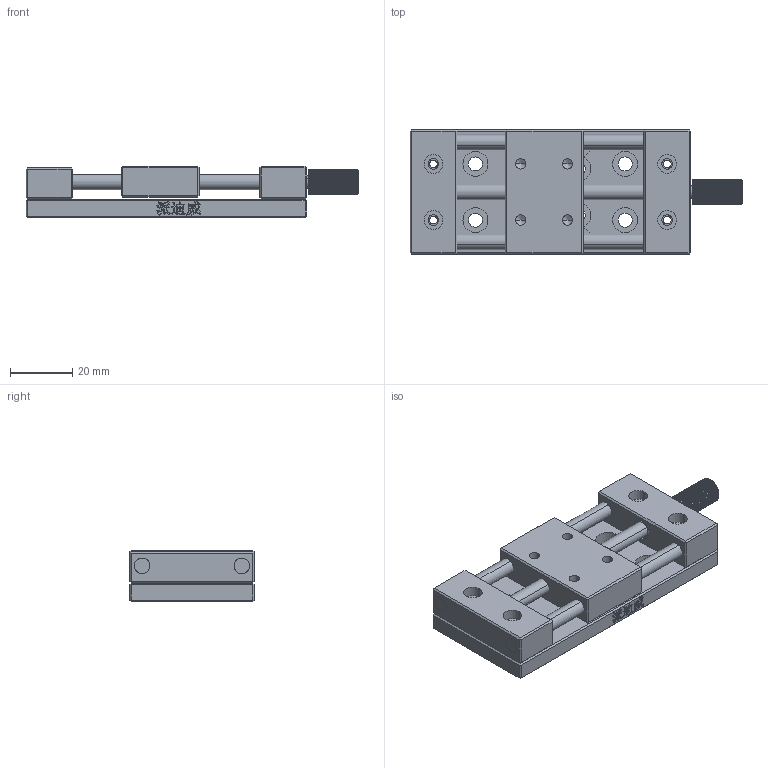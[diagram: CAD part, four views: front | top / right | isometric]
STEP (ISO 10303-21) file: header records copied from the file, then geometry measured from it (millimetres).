
FILE_DESCRIPTION (( 'STEP AP214' ), '1' );
FILE_NAME ('PT-SD35.STEP', '2022-08-21T07:55:40', ( '' ), ( '' ), 'SwSTEP 2.0', 'SolidWorks 2017', '' );
FILE_SCHEMA (( 'AUTOMOTIVE_DESIGN' ));
Length unit declared in the file: millimetre
Products named in the file (9): 絳寢; deep groove ball bearings gb_Rolling bearings 617-4 GB 276-94; PT-SD35; ヶ粣創釱; 佪話; 菁釱; 綴粣創釱; 怢醱; 忒謫
Assembly tree (10 placements, depth 2):
  PT-SD35
    菁釱
    綴粣創釱
    ヶ粣創釱
    絳寢  x2
    忒謫
    佪話
    怢醱
    deep groove ball bearings gb_Rolling bearings 617-4 GB 276-94  x2
Bounding box: 106.5 x 40 x 16.5 mm (x, y, z)
Volume: 42448 mm3; surface area: 25993.9 mm2
Topology: 10 solids, 10 shells, 1145 faces, 3348 edges, 2184 vertices
Faces by surface type: cylinder 395, bspline 384, plane 354, cone 12
Entity records: 46366 total; most frequent: CARTESIAN_POINT 21934, ORIENTED_EDGE 5674, DIRECTION 4054, EDGE_CURVE 2837, VERTEX_POINT 1853, AXIS2_PLACEMENT_3D 1381, VECTOR 1292, LINE 1292
